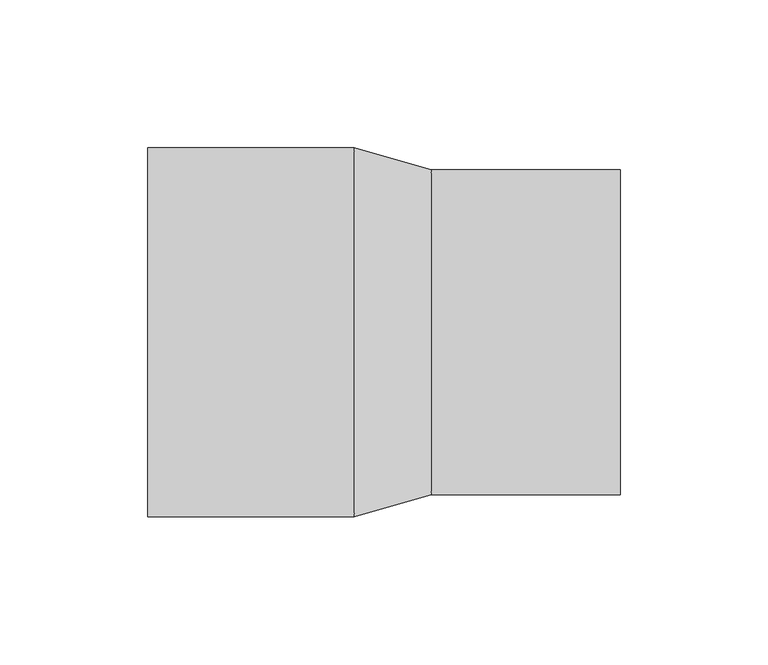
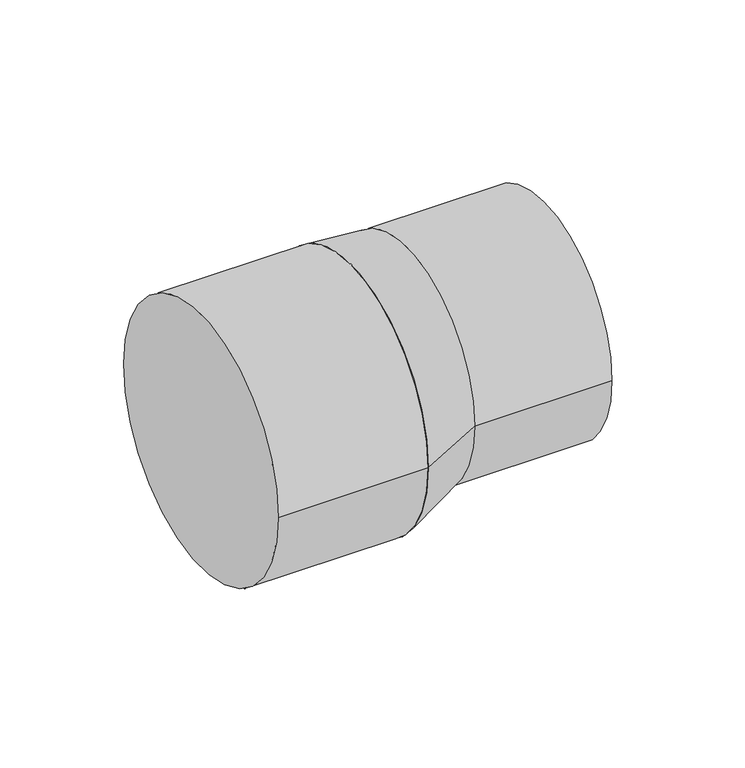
"""IFC4 building model written with IfcOpenShell, lengths in millimetres: pipe fitting geometry, NLRS_52_PIF_UN_PE verloop excentrisch, lang_PRO_101572_geb : DN100-300 / ø110-315 - OD."""

from ifc_helpers import new_model, si_unit, point, frame, frame_2d, origin, origin_2d, place, context, project, spatial, circle_curve, trimmed, segment, composite_curve, outline, extrude, source, transform, mapped, element, save
from ifc_brep_helpers import plane_surface, spline_surface, advanced_brep


def pipe_fitting_e7b06fe6(model_context):
    return source(origin(), model_context, "Body", "SolidModel", [
        advanced_brep(
        [(13.0, -55.0, 7.0), (13.0, 55.0, 7.0), (-13.0, -62.5, 0.0), (-13.0, 62.5, 0.0)],
        [
            (0, 1, circle_curve(frame((13.0, 0.0, 7.0), z_axis=(1.0, 0.0, 0.0), x_axis=(0.0, 1.0, 0.0)), 55.0)),
            (1, 0, circle_curve(frame((13.0, 0.0, 7.0), z_axis=(1.0, 0.0, 0.0), x_axis=(0.0, 1.0, 0.0)), 55.0)),
            (2, 3, circle_curve(frame((-13.0, 0.0, 0.0), z_axis=(-1.0, 0.0, 0.0), x_axis=(0.0, 1.0, 0.0)), 62.5)),
            (3, 2, circle_curve(frame((-13.0, 0.0, 0.0), z_axis=(-1.0, 0.0, 0.0), x_axis=(0.0, 1.0, 0.0)), 62.5)),
            (3, 1),
            (0, 2),
        ],
        [
            plane_surface(frame((13.0, 0.0, 7.0), z_axis=(1.0, 0.0, 0.0), x_axis=(0.0, 0.0, -1.0))),
            plane_surface(frame((-13.0, 0.0, 0.0), z_axis=(-1.0, 0.0, 0.0), x_axis=(0.0, 0.0, -1.0))),
            spline_surface(2, 1, [[(-13.0, -62.5, 0.0), (13.0, -55.0, 7.0)], [(-13.0, -62.5, -62.5), (13.0, -55.0, -48.0)], [(-13.0, 0.0, -62.5), (13.0, 0.0, -48.0)], [(-13.0, 62.5, -62.5), (13.0, 55.0, -48.0)], [(-13.0, 62.5, 0.0), (13.0, 55.0, 7.0)]], [3, 2, 3], [2, 2], [0.0, 1.0, 2.0], [0.0, 1.0], weights=[[1.0, 1.0], [0.7071067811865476, 0.7071067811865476], [1.0, 1.0], [0.7071067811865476, 0.7071067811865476], [1.0, 1.0]]),
            spline_surface(2, 1, [[(-13.0, 62.5, 0.0), (13.0, 55.0, 7.0)], [(-13.0, 62.5, 62.5), (13.0, 55.0, 62.0)], [(-13.0, 0.0, 62.5), (13.0, 0.0, 62.0)], [(-13.0, -62.5, 62.5), (13.0, -55.0, 62.0)], [(-13.0, -62.5, 0.0), (13.0, -55.0, 7.0)]], [3, 2, 3], [2, 2], [0.0, 1.0, 2.0], [0.0, 1.0], weights=[[1.0, 1.0], [0.7071067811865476, 0.7071067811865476], [1.0, 1.0], [0.7071067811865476, 0.7071067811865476], [1.0, 1.0]]),
        ],
        [
            (0, [[1, 2]]),
            (1, [[3, 4]]),
            (2, [[-4, 5, -1, 6]]),
            (3, [[-3, -6, -2, -5]]),
        ],
    ),
        extrude(outline(composite_curve([segment(trimmed(circle_curve(frame_2d((0.0, 7.0)), 55.0), [point((-55.0, 7.0))], [point((55.0, 7.0))], False, "CARTESIAN"), True, "CONTINUOUS"), segment(trimmed(circle_curve(frame_2d((0.0, 7.0)), 55.0), [point((55.0, 7.0))], [point((-55.0, 7.0))], False, "CARTESIAN"), True, "CONTINUOUS")], self_intersect=False)), frame((13.0, 0.0, 0.0), z_axis=(1.0, 0.0, 0.0), x_axis=(0.0, 1.0, 0.0)), (0.0, 0.0, 1.0), 64.0),
        extrude(outline(composite_curve([segment(trimmed(circle_curve(origin_2d(), 62.5), [point((-62.5, 0.0))], [point((62.5, 0.0))], False, "CARTESIAN"), True, "CONTINUOUS"), segment(trimmed(circle_curve(origin_2d(), 62.5), [point((62.5, 0.0))], [point((-62.5, 0.0))], False, "CARTESIAN"), True, "CONTINUOUS")], self_intersect=False)), frame((-83.0, 0.0, 0.0), z_axis=(1.0, 0.0, 0.0), x_axis=(0.0, 1.0, 0.0)), (0.0, 0.0, 1.0), 70.0),
    ])


if __name__ == "__main__":
    model = new_model("IFC4")
    model_context = context("Model", 3, world=origin())
    ifc_project = project(units=[si_unit("LENGTHUNIT", "METRE", prefix="MILLI")], contexts=[model_context])
    site = spatial("IfcSite", under=ifc_project)
    building = spatial("IfcBuilding", under=site)
    placement = place(None, origin())
    pipe_fitting_shape = pipe_fitting_e7b06fe6(model_context)
    element("IfcPipeFitting", 1, ObjectType="NLRS_52_PIF_UN_PE verloop excentrisch, lang_PRO_101572_geb : DN100-300 / ø110-315 - OD", at=placement, inside=building, context=model_context, shape_type="MappedRepresentation", body=[
        mapped(pipe_fitting_shape, transform((0.0, 0.0, 0.0), x_axis=(1.0, 0.0, 0.0), y_axis=(0.0, 1.0, 0.0), z_axis=(0.0, 0.0, 1.0))),
    ])
    save(model, "model.ifc")
